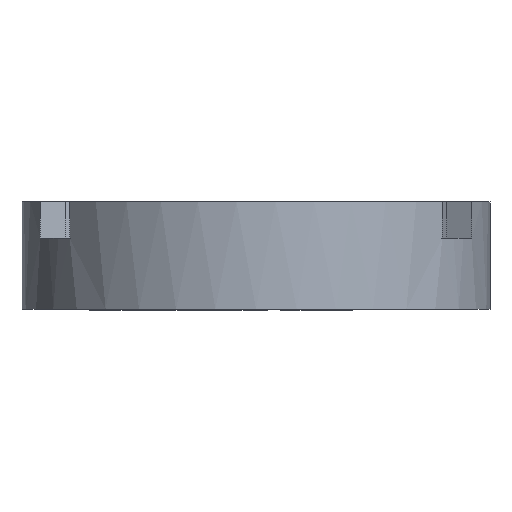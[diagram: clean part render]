
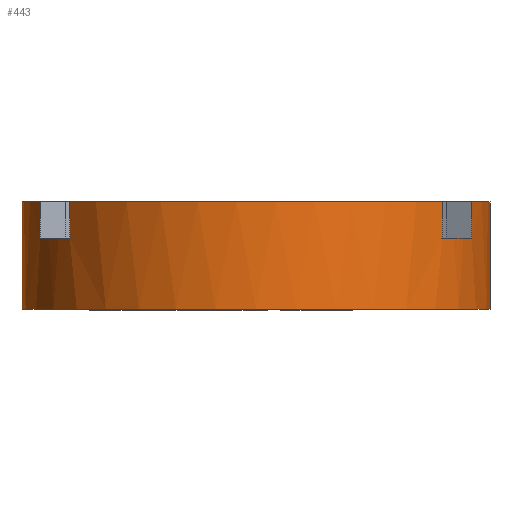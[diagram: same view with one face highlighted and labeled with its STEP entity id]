
A CAD part, left-side view. The second image highlights one B-rep face of the part: STEP entity #443.
In plain terms, the highlighted cylindrical face has radius 34.671 mm (diameter 69.342 mm), a partial arc.
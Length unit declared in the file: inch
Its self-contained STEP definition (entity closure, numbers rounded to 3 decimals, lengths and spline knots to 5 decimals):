
#35 = EDGE_CURVE ( 'Defeatured_1_14+Defeatured_1_2+Defeatured_1_0+Defeatured_1_10', #2641, #840, #2433, .T. ) ;
#118 = CARTESIAN_POINT ( 'NONE',  ( -0.52857, -1.25851, 0.625 ) ) ;
#121 = CARTESIAN_POINT ( 'NONE',  ( -0.82562, -1.08701, 0.625 ) ) ;
#140 = EDGE_CURVE ( 'Defeatured_1_2+Defeatured_1_15+Defeatured_1_0+Defeatured_1_10', #2692, #182, #1138, .T. ) ;
#147 = EDGE_CURVE ( 'Defeatured_1_0+Defeatured_1_2+Defeatured_1_13+Defeatured_1_14', #1083, #2641, #2556, .T. ) ;
#182 = VERTEX_POINT ( 'NONE', #3109 ) ;
#224 = LINE ( 'NONE', #2928, #1198 ) ;
#255 = DIRECTION ( 'NONE',  ( 0., 0., -1. ) ) ;
#262 = CARTESIAN_POINT ( 'NONE',  ( 0., 0., 0.625 ) ) ;
#284 = ORIENTED_EDGE ( 'NONE', *, *, #1459, .T. ) ;
#295 = CIRCLE ( 'NONE', #2176, 1.365 ) ;
#314 = DIRECTION ( 'NONE',  ( 0.866, 0.5, 0. ) ) ;
#320 = DIRECTION ( 'NONE',  ( 0., 0., 1. ) ) ;
#337 = VERTEX_POINT ( 'NONE', #3047 ) ;
#342 = DIRECTION ( 'NONE',  ( 0., 1., 0. ) ) ;
#345 = CARTESIAN_POINT ( 'NONE',  ( 0., 0., 0.415 ) ) ;
#351 = EDGE_CURVE ( 'NONE', #595, #1810, #2150, .T. ) ;
#408 = CARTESIAN_POINT ( 'NONE',  ( -0.82562, 1.08701, 0.625 ) ) ;
#443 = ADVANCED_FACE ( 'Defeatured_1_2', ( #2797 ), #3142, .T. ) ;
#489 = AXIS2_PLACEMENT_3D ( 'NONE', #609, #2560, #342 ) ;
#522 = DIRECTION ( 'NONE',  ( 0., 0., 1. ) ) ;
#554 = EDGE_LOOP ( 'NONE', ( #1657, #2272, #1579, #1552, #2300, #1097, #284, #1488, #2426, #951, #1676, #1925 ) ) ;
#576 = DIRECTION ( 'NONE',  ( -0.866, 0.5, 0. ) ) ;
#595 = VERTEX_POINT ( 'NONE', #2382 ) ;
#609 = CARTESIAN_POINT ( 'NONE',  ( 0., 0., 0.625 ) ) ;
#706 = AXIS2_PLACEMENT_3D ( 'NONE', #345, #2278, #314 ) ;
#796 = VECTOR ( 'NONE', #255, 39.37008 ) ;
#800 = CARTESIAN_POINT ( 'NONE',  ( 0., -1.365, 0.625 ) ) ;
#840 = VERTEX_POINT ( 'NONE', #2333 ) ;
#854 = VECTOR ( 'NONE', #1131, 39.37008 ) ;
#855 = CARTESIAN_POINT ( 'NONE',  ( -0.82562, -1.08701, 0.625 ) ) ;
#864 = CIRCLE ( 'NONE', #1693, 1.365 ) ;
#925 = AXIS2_PLACEMENT_3D ( 'NONE', #1016, #522, #2991 ) ;
#951 = ORIENTED_EDGE ( 'NONE', *, *, #2075, .F. ) ;
#1016 = CARTESIAN_POINT ( 'NONE',  ( 0., 0., 0.625 ) ) ;
#1069 = EDGE_CURVE ( 'Defeatured_1_0+Defeatured_1_2+Defeatured_1_15+Defeatured_1_6', #2692, #595, #1541, .T. ) ;
#1083 = VERTEX_POINT ( 'NONE', #1258 ) ;
#1095 = AXIS2_PLACEMENT_3D ( 'NONE', #262, #1986, #2474 ) ;
#1096 = CIRCLE ( 'NONE', #925, 1.365 ) ;
#1097 = ORIENTED_EDGE ( 'NONE', *, *, #147, .F. ) ;
#1131 = DIRECTION ( 'NONE',  ( 0., 0., -1. ) ) ;
#1138 = LINE ( 'NONE', #2008, #796 ) ;
#1177 = VECTOR ( 'NONE', #1523, 39.37008 ) ;
#1198 = VECTOR ( 'NONE', #2366, 39.37008 ) ;
#1200 = CARTESIAN_POINT ( 'NONE',  ( 0., 0., 0. ) ) ;
#1225 = VERTEX_POINT ( 'NONE', #1273 ) ;
#1258 = CARTESIAN_POINT ( 'NONE',  ( -0.82562, 1.08701, 0.625 ) ) ;
#1273 = CARTESIAN_POINT ( 'NONE',  ( 0., 1.365, 0.625 ) ) ;
#1277 = CARTESIAN_POINT ( 'NONE',  ( 0., -1.365, 0. ) ) ;
#1313 = CARTESIAN_POINT ( 'NONE',  ( 0., 0., 0.415 ) ) ;
#1321 = CARTESIAN_POINT ( 'NONE',  ( -0.52857, 1.25851, 0.625 ) ) ;
#1371 = AXIS2_PLACEMENT_3D ( 'NONE', #2354, #1600, #1392 ) ;
#1392 = DIRECTION ( 'NONE',  ( 0., -1., 0. ) ) ;
#1404 = VECTOR ( 'NONE', #2662, 39.37008 ) ;
#1453 = VECTOR ( 'NONE', #2648, 39.37008 ) ;
#1459 = EDGE_CURVE ( 'Defeatured_1_2+Defeatured_1_13+Defeatured_1_0+Defeatured_1_8', #1083, #3052, #2291, .T. ) ;
#1488 = ORIENTED_EDGE ( 'NONE', *, *, #2587, .F. ) ;
#1490 = EDGE_CURVE ( 'Defeatured_1_12+Defeatured_1_2+Defeatured_1_0+Defeatured_1_8', #3220, #337, #224, .T. ) ;
#1523 = DIRECTION ( 'NONE',  ( 0., 0., -1. ) ) ;
#1539 = VERTEX_POINT ( 'NONE', #1946 ) ;
#1541 = CIRCLE ( 'NONE', #1095, 1.365 ) ;
#1552 = ORIENTED_EDGE ( 'NONE', *, *, #3242, .F. ) ;
#1556 = LINE ( 'NONE', #2688, #854 ) ;
#1579 = ORIENTED_EDGE ( 'NONE', *, *, #140, .T. ) ;
#1600 = DIRECTION ( 'NONE',  ( 0., 0., 1. ) ) ;
#1657 = ORIENTED_EDGE ( 'NONE', *, *, #351, .F. ) ;
#1676 = ORIENTED_EDGE ( 'NONE', *, *, #2407, .T. ) ;
#1693 = AXIS2_PLACEMENT_3D ( 'NONE', #1313, #320, #576 ) ;
#1761 = CARTESIAN_POINT ( 'NONE',  ( -0.82562, 1.08701, 0.415 ) ) ;
#1810 = VERTEX_POINT ( 'NONE', #1277 ) ;
#1925 = ORIENTED_EDGE ( 'NONE', *, *, #1966, .T. ) ;
#1946 = CARTESIAN_POINT ( 'NONE',  ( 0., 1.365, 0. ) ) ;
#1952 = DIRECTION ( 'NONE',  ( 0., -1., 0. ) ) ;
#1966 = EDGE_CURVE ( 'Defeatured_1_2+Defeatured_1_3+Defeatured_1_3+Defeatured_1_3', #1539, #1810, #295, .T. ) ;
#1986 = DIRECTION ( 'NONE',  ( 0., 0., 1. ) ) ;
#2008 = CARTESIAN_POINT ( 'NONE',  ( -0.52857, -1.25851, 0.625 ) ) ;
#2075 = EDGE_CURVE ( 'Defeatured_1_0+Defeatured_1_2+Defeatured_1_7+Defeatured_1_12', #1225, #3220, #1096, .T. ) ;
#2119 = CIRCLE ( 'NONE', #706, 1.365 ) ;
#2150 = LINE ( 'NONE', #800, #1177 ) ;
#2176 = AXIS2_PLACEMENT_3D ( 'NONE', #1200, #2190, #1952 ) ;
#2190 = DIRECTION ( 'NONE',  ( 0., 0., 1. ) ) ;
#2272 = ORIENTED_EDGE ( 'NONE', *, *, #1069, .F. ) ;
#2278 = DIRECTION ( 'NONE',  ( 0., 0., 1. ) ) ;
#2291 = LINE ( 'NONE', #408, #1404 ) ;
#2300 = ORIENTED_EDGE ( 'NONE', *, *, #35, .F. ) ;
#2333 = CARTESIAN_POINT ( 'NONE',  ( -0.82562, -1.08701, 0.415 ) ) ;
#2354 = CARTESIAN_POINT ( 'NONE',  ( 0., 0., 0.625 ) ) ;
#2366 = DIRECTION ( 'NONE',  ( 0., 0., -1. ) ) ;
#2382 = CARTESIAN_POINT ( 'NONE',  ( 0., -1.365, 0.625 ) ) ;
#2407 = EDGE_CURVE ( 'NONE', #1225, #1539, #1556, .T. ) ;
#2426 = ORIENTED_EDGE ( 'NONE', *, *, #1490, .F. ) ;
#2433 = LINE ( 'NONE', #121, #1453 ) ;
#2474 = DIRECTION ( 'NONE',  ( 0., -1., 0. ) ) ;
#2556 = CIRCLE ( 'NONE', #1371, 1.365 ) ;
#2560 = DIRECTION ( 'NONE',  ( 0., 0., -1. ) ) ;
#2587 = EDGE_CURVE ( 'Defeatured_1_8+Defeatured_1_2+Defeatured_1_12+Defeatured_1_13', #337, #3052, #2119, .T. ) ;
#2641 = VERTEX_POINT ( 'NONE', #855 ) ;
#2648 = DIRECTION ( 'NONE',  ( 0., 0., -1. ) ) ;
#2662 = DIRECTION ( 'NONE',  ( 0., 0., -1. ) ) ;
#2688 = CARTESIAN_POINT ( 'NONE',  ( 0., 1.365, 0.625 ) ) ;
#2692 = VERTEX_POINT ( 'NONE', #118 ) ;
#2797 = FACE_OUTER_BOUND ( 'NONE', #554, .T. ) ;
#2928 = CARTESIAN_POINT ( 'NONE',  ( -0.52857, 1.25851, 0.625 ) ) ;
#2991 = DIRECTION ( 'NONE',  ( 0., -1., 0. ) ) ;
#3047 = CARTESIAN_POINT ( 'NONE',  ( -0.52857, 1.25851, 0.415 ) ) ;
#3052 = VERTEX_POINT ( 'NONE', #1761 ) ;
#3109 = CARTESIAN_POINT ( 'NONE',  ( -0.52857, -1.25851, 0.415 ) ) ;
#3142 = CYLINDRICAL_SURFACE ( 'NONE', #489, 1.365 ) ;
#3220 = VERTEX_POINT ( 'NONE', #1321 ) ;
#3242 = EDGE_CURVE ( 'Defeatured_1_10+Defeatured_1_2+Defeatured_1_14+Defeatured_1_15', #840, #182, #864, .T. ) ;
